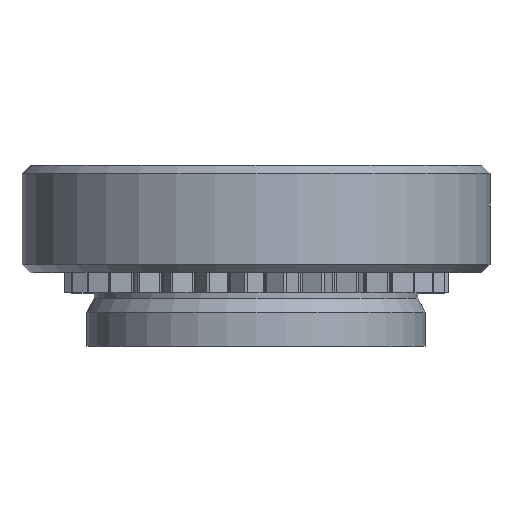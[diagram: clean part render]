
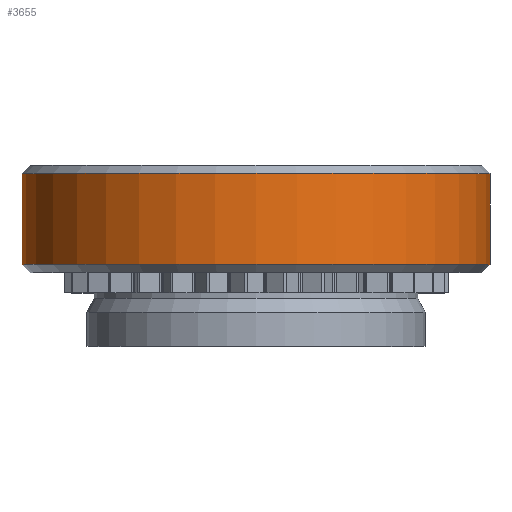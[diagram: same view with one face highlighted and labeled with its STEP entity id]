
A CAD part, top view. The second image highlights one B-rep face of the part: STEP entity #3655.
In plain terms, the highlighted cylindrical face has radius 4.375 mm (diameter 8.75 mm), a full revolution.
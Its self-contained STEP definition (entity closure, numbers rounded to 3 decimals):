
#85=CYLINDRICAL_SURFACE('',#3880,4.375);
#214=FACE_OUTER_BOUND('',#413,.T.);
#413=EDGE_LOOP('',(#2490,#2491,#2492,#2493,#2494,#2495));
#616=LINE('',#5597,#935);
#935=VECTOR('',#4355,4.375);
#1253=CIRCLE('',#3877,4.375);
#1254=CIRCLE('',#3878,4.375);
#1256=CIRCLE('',#3881,4.375);
#1257=CIRCLE('',#3882,4.375);
#1516=VERTEX_POINT('',#5585);
#1517=VERTEX_POINT('',#5586);
#1519=VERTEX_POINT('',#5593);
#1520=VERTEX_POINT('',#5594);
#1903=EDGE_CURVE('',#1516,#1517,#1253,.T.);
#1904=EDGE_CURVE('',#1517,#1516,#1254,.T.);
#1907=EDGE_CURVE('',#1519,#1520,#1256,.T.);
#1908=EDGE_CURVE('',#1520,#1519,#1257,.T.);
#1909=EDGE_CURVE('',#1520,#1517,#616,.T.);
#2490=ORIENTED_EDGE('',*,*,#1907,.F.);
#2491=ORIENTED_EDGE('',*,*,#1908,.F.);
#2492=ORIENTED_EDGE('',*,*,#1909,.T.);
#2493=ORIENTED_EDGE('',*,*,#1903,.F.);
#2494=ORIENTED_EDGE('',*,*,#1904,.F.);
#2495=ORIENTED_EDGE('',*,*,#1909,.F.);
#3655=ADVANCED_FACE('',(#214),#85,.T.);
#3877=AXIS2_PLACEMENT_3D('',#5587,#4342,#4343);
#3878=AXIS2_PLACEMENT_3D('',#5588,#4344,#4345);
#3880=AXIS2_PLACEMENT_3D('',#5592,#4349,#4350);
#3881=AXIS2_PLACEMENT_3D('',#5595,#4351,#4352);
#3882=AXIS2_PLACEMENT_3D('',#5596,#4353,#4354);
#4342=DIRECTION('center_axis',(0.,-1.,0.));
#4343=DIRECTION('ref_axis',(1.,0.,0.));
#4344=DIRECTION('center_axis',(0.,-1.,0.));
#4345=DIRECTION('ref_axis',(1.,0.,0.));
#4349=DIRECTION('center_axis',(0.,1.,0.));
#4350=DIRECTION('ref_axis',(-1.,0.,0.));
#4351=DIRECTION('center_axis',(0.,1.,0.));
#4352=DIRECTION('ref_axis',(1.,0.,0.));
#4353=DIRECTION('center_axis',(0.,1.,0.));
#4354=DIRECTION('ref_axis',(1.,0.,0.));
#4355=DIRECTION('',(0.,-1.,0.));
#5585=CARTESIAN_POINT('',(-4.375,1.53,0.));
#5586=CARTESIAN_POINT('',(4.375,1.53,0.));
#5587=CARTESIAN_POINT('Origin',(0.,1.53,0.));
#5588=CARTESIAN_POINT('Origin',(0.,1.53,0.));
#5592=CARTESIAN_POINT('Origin',(0.,2.38,0.));
#5593=CARTESIAN_POINT('',(-4.375,3.23,0.));
#5594=CARTESIAN_POINT('',(4.375,3.23,0.));
#5595=CARTESIAN_POINT('Origin',(0.,3.23,0.));
#5596=CARTESIAN_POINT('Origin',(0.,3.23,0.));
#5597=CARTESIAN_POINT('',(4.375,2.38,0.));
